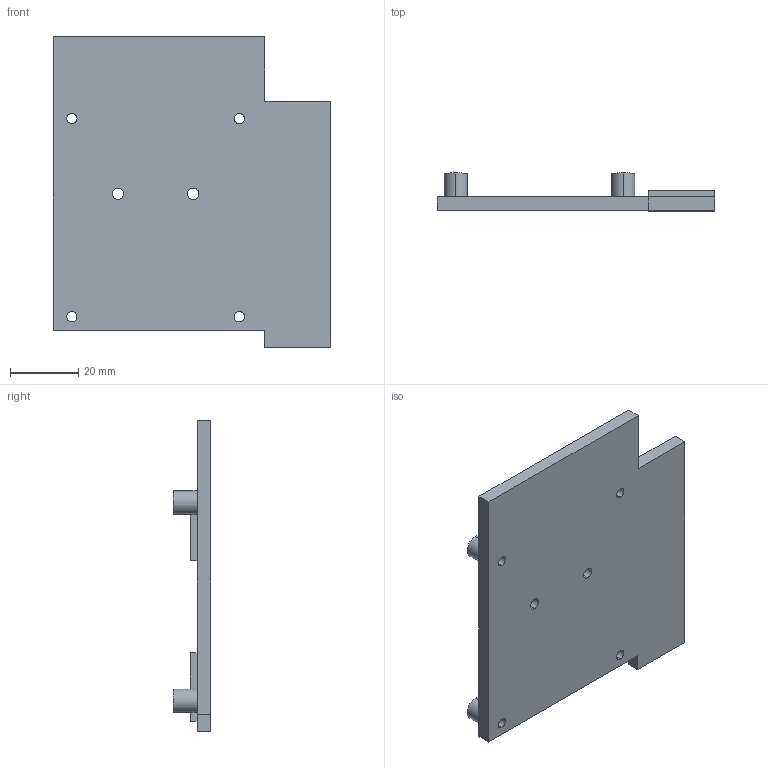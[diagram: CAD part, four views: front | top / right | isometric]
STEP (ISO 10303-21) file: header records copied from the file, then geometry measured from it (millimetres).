
FILE_DESCRIPTION(('Open CASCADE Model'),'2;1');
FILE_NAME('controller-tray.step','2026-11-14T14:32:01',('Author'),( 'Open CASCADE'),'Open CASCADE STEP processor 8.0','Open CASCADE 8.0' ,'Unknown');
FILE_SCHEMA(('AP242_MANAGED_MODEL_BASED_3D_ENGINEERING_MIM_LF {1 0 10303 442 1 1 4 }' ));
Length unit declared in the file: millimetre
Products named in the file (1): Controller Tray
Bounding box: 81.3 x 11 x 91 mm (x, y, z)
Volume: 28908.8 mm3; surface area: 16126.6 mm2
Topology: 1 solids, 1 shells, 43 faces, 108 edges, 72 vertices
Faces by surface type: plane 23, cylinder 20
Entity records: 2836 total; most frequent: CARTESIAN_POINT 632, DIRECTION 420, LINE 244, VECTOR 244, ORIENTED_EDGE 216, PCURVE 216, DEFINITIONAL_REPRESENTATION 216, EDGE_CURVE 108
